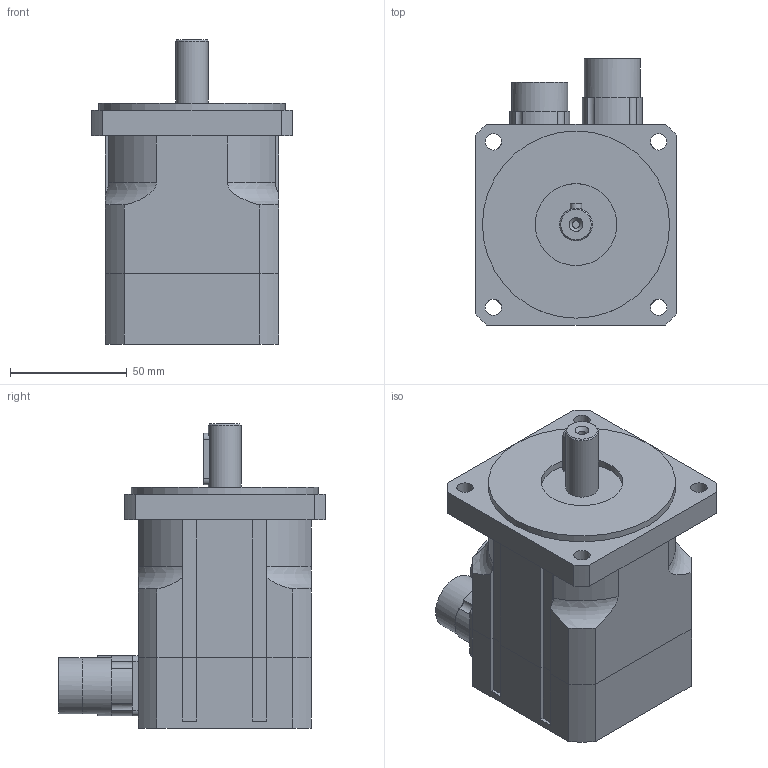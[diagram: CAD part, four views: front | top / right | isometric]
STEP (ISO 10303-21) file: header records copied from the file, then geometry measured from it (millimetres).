
FILE_DESCRIPTION(/* description */ ('Alibre Inc.'),/* implementation_level */ '2;1');
FILE_NAME(/* name */ 'export0',/* time_stamp */ '2011-08-11T08:43:19+02:00',/* author */ (''),/* organization */ (''),/* preprocessor_version */ 'ST-DEVELOPER v12',/* originating_system */ 'Alibre',/* authorisation */ '');
FILE_SCHEMA (('AUTOMOTIVE_DESIGN'));
Length unit declared in the file: millimetre
Products named in the file (6): ID_1
Bounding box: 86 x 114 x 130 mm (x, y, z)
Volume: 561619.2 mm3; surface area: 68853 mm2
Topology: 5 solids, 5 shells, 170 faces, 439 edges, 287 vertices
Faces by surface type: plane 81, cylinder 59, bspline 25, torus 4, cone 1
Full cylindrical faces by diameter (mm): 2.7 x8, 14 x1, 20 x2, 24 x2, 35 x1, 80 x1
Entity records: 5692 total; most frequent: CARTESIAN_POINT 1548, ORIENTED_EDGE 812, DIRECTION 775, EDGE_CURVE 406, AXIS2_PLACEMENT_3D 320, VERTEX_POINT 278, EDGE_LOOP 230, FACE_BOUND 230
